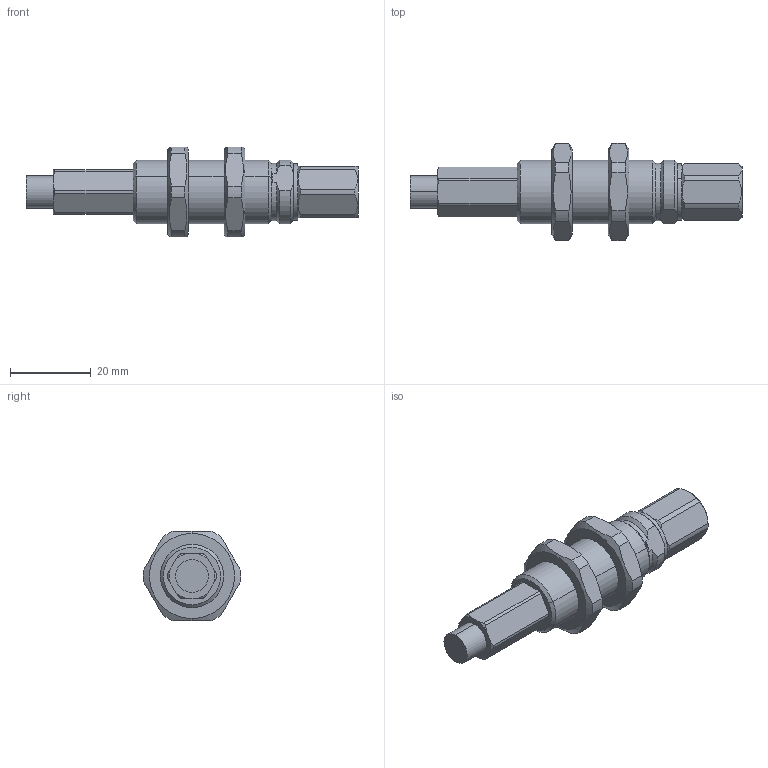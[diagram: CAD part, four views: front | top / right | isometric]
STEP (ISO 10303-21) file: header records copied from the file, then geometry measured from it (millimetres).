
FILE_DESCRIPTION (( 'STEP AP203' ), '1' );
FILE_NAME ('LC18-NR-PUBLIC.STEP', '2012-03-15T19:34:19', ( '' ), ( '' ), 'SwSTEP 2.0', 'SolidWorks 2012', '' );
FILE_SCHEMA (( 'CONFIG_CONTROL_DESIGN' ));
Length unit declared in the file: inch
Products named in the file (1): LC18-NR-PUBLIC
Bounding box: 82.3 x 24.11 x 22.23 mm (x, y, z)
Volume: 13629 mm3; surface area: 5316 mm2
Topology: 1 solids, 1 shells, 108 faces, 284 edges, 186 vertices
Faces by surface type: cylinder 40, plane 40, cone 28
Entity records: 3763 total; most frequent: CARTESIAN_POINT 1041, ORIENTED_EDGE 568, DIRECTION 544, EDGE_CURVE 284, AXIS2_PLACEMENT_3D 219, VERTEX_POINT 186, EDGE_LOOP 116, CIRCLE 110
